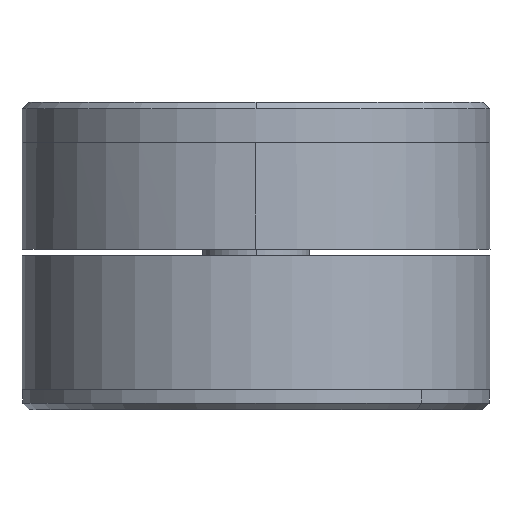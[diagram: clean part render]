
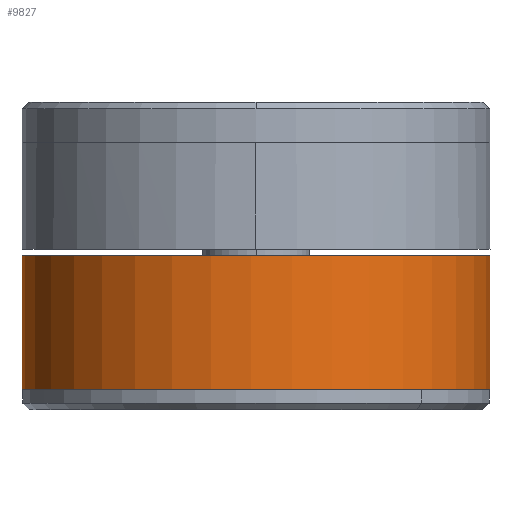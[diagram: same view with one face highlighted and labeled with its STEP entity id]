
A CAD part, left-side view. The second image highlights one B-rep face of the part: STEP entity #9827.
In plain terms, the highlighted cylindrical face has radius 17.5 mm (diameter 35 mm), a partial arc.
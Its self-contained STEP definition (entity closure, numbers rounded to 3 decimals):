
#31 = DIRECTION ( 'NONE',  ( 0., 0., -1. ) ) ;
#35 = EDGE_CURVE ( 'NONE', #5760, #1708, #11563, .T. ) ;
#644 = VERTEX_POINT ( 'NONE', #16886 ) ;
#1199 = EDGE_LOOP ( 'NONE', ( #6663, #14160, #11517, #2958 ) ) ;
#1708 = VERTEX_POINT ( 'NONE', #9379 ) ;
#1720 = CIRCLE ( 'NONE', #8973, 17.5 ) ;
#1844 = CARTESIAN_POINT ( 'NONE',  ( -0.348, -17.497, 60.166 ) ) ;
#1878 = AXIS2_PLACEMENT_3D ( 'NONE', #14698, #2177, #6533 ) ;
#2177 = DIRECTION ( 'NONE',  ( 0., 0., 1. ) ) ;
#2944 = CARTESIAN_POINT ( 'NONE',  ( 0.348, 17.497, 60.166 ) ) ;
#2958 = ORIENTED_EDGE ( 'NONE', *, *, #35, .F. ) ;
#3068 = CIRCLE ( 'NONE', #1878, 17.5 ) ;
#3075 = DIRECTION ( 'NONE',  ( 0., 0., -1. ) ) ;
#3625 = VECTOR ( 'NONE', #31, 1000. ) ;
#4451 = CARTESIAN_POINT ( 'NONE',  ( 0., 0., 60.166 ) ) ;
#5760 = VERTEX_POINT ( 'NONE', #6758 ) ;
#6533 = DIRECTION ( 'NONE',  ( 0.02, 1., 0. ) ) ;
#6663 = ORIENTED_EDGE ( 'NONE', *, *, #9424, .F. ) ;
#6758 = CARTESIAN_POINT ( 'NONE',  ( -0.348, -17.497, 60.166 ) ) ;
#7246 = DIRECTION ( 'NONE',  ( -0.02, -1., 0. ) ) ;
#7648 = AXIS2_PLACEMENT_3D ( 'NONE', #4451, #15601, #7246 ) ;
#8589 = CARTESIAN_POINT ( 'NONE',  ( 0.348, 17.497, 60.166 ) ) ;
#8667 = VERTEX_POINT ( 'NONE', #2944 ) ;
#8772 = EDGE_CURVE ( 'NONE', #644, #1708, #1720, .T. ) ;
#8973 = AXIS2_PLACEMENT_3D ( 'NONE', #17075, #15839, #10167 ) ;
#9379 = CARTESIAN_POINT ( 'NONE',  ( -0.348, -17.497, 50.166 ) ) ;
#9424 = EDGE_CURVE ( 'NONE', #8667, #5760, #3068, .T. ) ;
#9796 = FACE_OUTER_BOUND ( 'NONE', #1199, .T. ) ;
#9827 = ADVANCED_FACE ( 'NONE', ( #9796 ), #17454, .T. ) ;
#10167 = DIRECTION ( 'NONE',  ( 0.02, 1., 0. ) ) ;
#11517 = ORIENTED_EDGE ( 'NONE', *, *, #8772, .T. ) ;
#11563 = LINE ( 'NONE', #1844, #13467 ) ;
#13467 = VECTOR ( 'NONE', #3075, 1000. ) ;
#14160 = ORIENTED_EDGE ( 'NONE', *, *, #16719, .T. ) ;
#14698 = CARTESIAN_POINT ( 'NONE',  ( 0., 0., 60.166 ) ) ;
#15601 = DIRECTION ( 'NONE',  ( 0., 0., -1. ) ) ;
#15839 = DIRECTION ( 'NONE',  ( 0., 0., 1. ) ) ;
#16719 = EDGE_CURVE ( 'NONE', #8667, #644, #17390, .T. ) ;
#16886 = CARTESIAN_POINT ( 'NONE',  ( 0.348, 17.497, 50.166 ) ) ;
#17075 = CARTESIAN_POINT ( 'NONE',  ( 0., 0., 50.166 ) ) ;
#17390 = LINE ( 'NONE', #8589, #3625 ) ;
#17454 = CYLINDRICAL_SURFACE ( 'NONE', #7648, 17.5 ) ;
